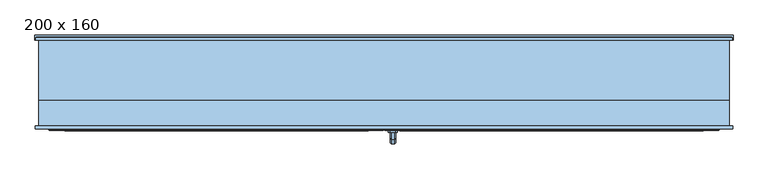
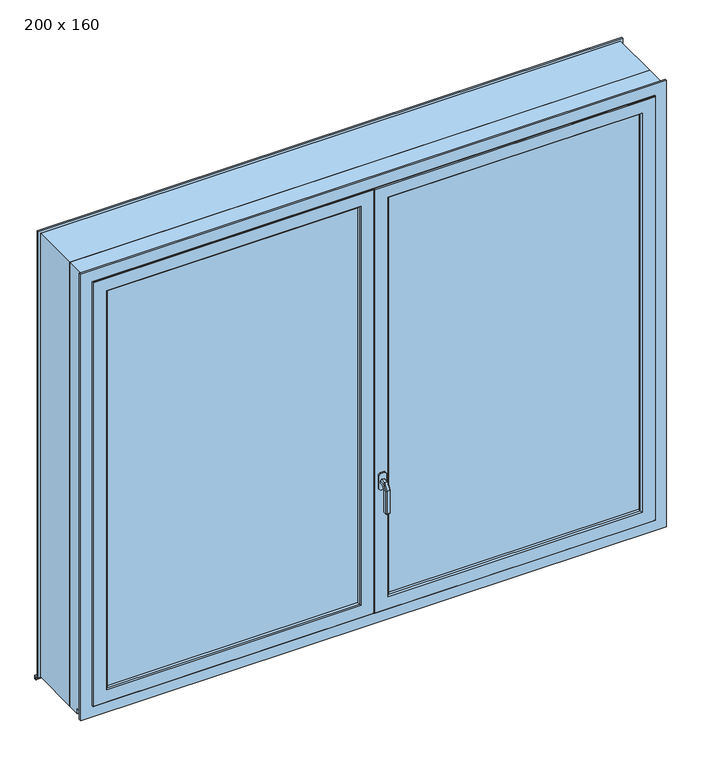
"""IFC4 building model written with IfcOpenShell, lengths in millimetres: window geometry, 2 Vantaux : 200 x 160."""

from ifc_helpers import new_model, si_unit, frame, origin, place, context, project, spatial, polyline, outline, extrude, faceted_brep, source, transform, mapped, element, save


def window_200_x_160_064ba838(model_context):
    return source(origin(), model_context, "Body", "SolidModel", [
        faceted_brep([(30.9590356, -143.0471229, 1308.0), (33.9411255, -143.0471229, 1305.0179101), (33.9411255, -143.0471229, 1294.9820899), (30.9590356, -143.0471229, 1292.0), (20.9232154, -143.0471229, 1292.0), (17.9411255, -143.0471229, 1294.9820899), (17.9411255, -143.0471229, 1305.0179101), (20.9232154, -143.0471229, 1308.0), (30.9590356, -162.665925, 1308.0), (33.9411255, -160.9442146, 1305.0179101), (33.9411255, -173.065033, 1284.0240369), (33.9411255, -173.065033, 1201.9658946), (33.9411255, -163.0292127, 1201.9658946), (33.9411255, -163.0292127, 1281.334947), (33.9411255, -155.1500311, 1294.9820899), (30.9590356, -153.4283207, 1292.0), (20.9232154, -153.4283207, 1292.0), (17.9411255, -155.1500311, 1294.9820899), (17.9411255, -163.0292127, 1281.334947), (17.9411255, -163.0292127, 1201.9658946), (17.9411255, -173.065033, 1201.9658946), (17.9411255, -173.065033, 1284.0240369), (17.9411255, -160.9442146, 1305.0179101), (20.9232154, -162.665925, 1308.0), (30.9590356, -176.0471229, 1284.8230855), (30.9590356, -160.0471229, 1280.5358984), (20.9232154, -160.0471229, 1280.5358984), (20.9232154, -176.0471229, 1284.8230855), (21.7375155, -174.0812283, 1200.0), (19.90702, -172.2507328, 1200.0), (19.90702, -163.8435129, 1200.0), (21.7375155, -162.0130174, 1200.0), (30.1447355, -162.0130174, 1200.0), (31.9752309, -163.8435129, 1200.0), (31.9752309, -172.2507328, 1200.0), (30.1447355, -174.0812283, 1200.0), (30.9590356, -176.0471229, 1201.9658946), (30.9590356, -160.0471229, 1201.9658946), (20.9232154, -160.0471229, 1201.9658946), (20.9232154, -176.0471229, 1201.9658946)], [[[0, 1, 2, 3, 4, 5, 6, 7]], [[1, 0, 8, 9]], [[2, 1, 9, 10, 11, 12, 13, 14]], [[3, 2, 14, 15]], [[4, 3, 15, 16]], [[5, 4, 16, 17]], [[6, 5, 17, 18, 19, 20, 21, 22]], [[7, 6, 22, 23]], [[0, 7, 23, 8]], [[9, 8, 24, 10]], [[14, 13, 25, 15]], [[16, 15, 25, 26]], [[17, 16, 26, 18]], [[22, 21, 27, 23]], [[8, 23, 27, 24]], [[28, 29, 30, 31, 32, 33, 34, 35]], [[10, 24, 36, 11]], [[25, 13, 12, 37]], [[26, 25, 37, 38]], [[18, 26, 38, 19]], [[27, 21, 20, 39]], [[24, 27, 39, 36]], [[20, 29, 28, 39]], [[29, 20, 19, 30]], [[30, 19, 38, 31]], [[31, 38, 37, 32]], [[32, 37, 12, 33]], [[33, 12, 11, 34]], [[34, 11, 36, 35]], [[39, 28, 35, 36]]]),
        extrude(outline(polyline([(1270.0, 33.9411255), (1275.0, 38.9411255), (1325.0, 38.9411255), (1330.0, 33.9411255), (1330.0, 17.9411255), (1325.0, 12.9411255), (1275.0, 12.9411255), (1270.0, 17.9411255), (1270.0, 33.9411255)])), frame((0.0, -143.0471229, 0.0), z_axis=(0.0, 1.0, 0.0), x_axis=(0.0, 0.0, 1.0)), (0.0, 0.0, 1.0), 5.0),
        faceted_brep([(920.0, -99.0588745, 2320.0), (924.0588745, -95.0, 2324.0588745), (924.0588745, -95.0, 869.4411255), (920.0, -99.0588745, 873.5), (968.5, -95.0, 2368.5), (968.5, -95.0, 825.0), (1.5, -95.0, 825.0), (1.5, -95.0, 2368.5), (45.9411255, -95.0, 2324.0588745), (45.9411255, -95.0, 869.4411255), (50.0, -99.0588745, 873.5), (920.0, -108.5235614, 2320.0), (920.0, -108.5235614, 873.5), (50.0, -108.5235614, 873.5), (44.0, -108.5235614, 2326.0), (44.0, -108.5235614, 867.5), (926.0, -108.5235614, 867.5), (926.0, -108.5235614, 2326.0), (50.0, -108.5235614, 2320.0), (926.0, -124.5235614, 2326.0), (926.0, -124.5235614, 867.5), (44.0, -124.5235614, 867.5), (44.0, -124.5235614, 2326.0), (50.0, -124.5235614, 2320.0), (50.0, -124.5235614, 873.5), (920.0, -124.5235614, 873.5), (920.0, -124.5235614, 2320.0), (920.0, -133.9882484, 2320.0), (920.0, -133.9882484, 873.5), (50.0, -133.9882484, 873.5), (924.0588745, -138.0471229, 2324.0588745), (924.0588745, -138.0471229, 869.4411255), (45.9411255, -138.0471229, 869.4411255), (1.5, -138.0471229, 2368.5), (1.5, -138.0471229, 825.0), (968.5, -138.0471229, 825.0), (968.5, -138.0471229, 2368.5), (45.9411255, -138.0471229, 2324.0588745), (970.0, -96.5, 2370.0), (970.0, -136.5471229, 2370.0), (970.0, -136.5471229, 823.5), (970.0, -96.5, 823.5), (0.0, -136.5471229, 823.5), (0.0, -96.5, 823.5), (50.0, -99.0588745, 2320.0), (50.0, -133.9882484, 2320.0), (0.0, -136.5471229, 2370.0), (0.0, -96.5, 2370.0)], [[[0, 1, 2, 3]], [[4, 5, 6, 7], [8, 9, 2, 1]], [[3, 2, 9, 10]], [[11, 0, 3, 12]], [[12, 3, 10, 13]], [[14, 15, 16, 17], [11, 12, 13, 18]], [[19, 17, 16, 20]], [[20, 16, 15, 21]], [[19, 20, 21, 22], [23, 24, 25, 26]], [[27, 26, 25, 28]], [[28, 25, 24, 29]], [[30, 27, 28, 31]], [[31, 28, 29, 32]], [[33, 34, 35, 36], [30, 31, 32, 37]], [[38, 39, 40, 41]], [[39, 36, 35, 40]], [[41, 40, 42, 43]], [[4, 38, 41, 5]], [[10, 9, 8, 44]], [[13, 10, 44, 18]], [[21, 15, 14, 22]], [[29, 24, 23, 45]], [[32, 29, 45, 37]], [[40, 35, 34, 42]], [[43, 42, 46, 47]], [[5, 41, 43, 6]], [[6, 43, 47, 7]], [[42, 34, 33, 46]], [[44, 8, 1, 0]], [[18, 44, 0, 11]], [[22, 14, 17, 19]], [[45, 23, 26, 27]], [[37, 45, 27, 30]], [[47, 46, 39, 38]], [[7, 47, 38, 4]], [[46, 33, 36, 39]]]),
        faceted_brep([(-975.6755267, -45.0, 813.8687943), (-975.6755267, -45.0, 795.0), (-975.6755267, -47.0, 795.0), (-975.6755267, -47.0, 800.0), (-975.6755267, -50.0, 800.0), (-975.6755267, -50.0, 814.2950679), (975.6755267, -45.0, 813.8687943), (975.6755267, -45.0, 795.0), (975.6755267, -47.0, 795.0), (975.6755267, -47.0, 800.0), (975.6755267, -50.0, 800.0), (975.0, -50.6755267, 800.0), (975.0, -85.0, 800.0), (960.0, -85.0, 800.0), (960.0, -95.0, 800.0), (1000.0, -95.0, 800.0), (1000.0, -125.0, 800.0), (-1000.0, -125.0, 800.0), (-1000.0, -95.0, 800.0), (-960.0, -95.0, 800.0), (-960.0, -85.0, 800.0), (-975.0, -85.0, 800.0), (-975.0, -50.6755267, 800.0), (-975.6755267, -50.0, 783.5), (-1000.0, -50.0, 783.5), (-1000.0, -50.0, 2400.0), (1000.0, -50.0, 2400.0), (1000.0, -50.0, 783.5), (975.6755267, -50.0, 783.5), (975.6755267, -50.0, 814.2950679), (975.6755267, -50.0, 2375.6755267), (-975.6755267, -50.0, 2375.6755267), (-975.0, -50.6755267, 814.3526597), (-975.0, -85.0, 817.278983), (975.0, -85.0, 817.278983), (975.0, -50.6755267, 814.3526597), (-1010.0, -125.0, 783.5), (-1010.0, -125.0, 2410.0), (1010.0, -125.0, 2410.0), (1010.0, -125.0, 783.5), (1000.0, -125.0, 2400.0), (-1000.0, -125.0, 2400.0), (-1010.0, -133.0, 783.5), (-1010.0, -133.0, 2410.0), (1010.0, -133.0, 2410.0), (1010.0, -133.0, 783.5), (1000.0, -95.0, 783.5), (960.0, -95.0, 783.5), (960.0, -85.0, 783.5), (975.0, -85.0, 783.5), (975.0, -50.6755267, 783.5), (-975.0, -50.6755267, 783.5), (-975.0, -85.0, 783.5), (-960.0, -85.0, 783.5), (-960.0, -95.0, 783.5), (-1000.0, -95.0, 783.5), (-970.0, -133.0, 2370.0), (970.0, -133.0, 2370.0), (970.0, -133.0, 823.5), (-970.0, -133.0, 823.5), (970.0, -95.0, 2370.0), (970.0, -95.0, 823.5), (-970.0, -95.0, 823.5), (-970.0, -95.0, 2370.0), (-960.0, -95.0, 2360.0), (960.0, -95.0, 2360.0), (960.0, -95.0, 833.5), (-960.0, -95.0, 833.5), (960.0, -85.0, 2360.0), (960.0, -85.0, 833.5), (-960.0, -85.0, 833.5), (-960.0, -85.0, 2360.0), (-975.0, -85.0, 2375.0), (975.0, -85.0, 2375.0), (-975.0, -50.6755267, 2375.0), (975.0, -50.6755267, 2375.0)], [[[0, 1, 2, 3, 4, 5]], [[1, 0, 6, 7]], [[2, 1, 7, 8]], [[3, 2, 8, 9]], [[3, 9, 10, 11, 12, 13, 14, 15, 16, 17, 18, 19, 20, 21, 22, 4]], [[23, 24, 25, 26, 27, 28, 10, 29, 30, 31, 5, 4]], [[6, 0, 5, 32, 33, 34, 35, 29]], [[9, 8, 7, 6, 29, 10]], [[36, 37, 38, 39], [16, 40, 41, 17]], [[36, 42, 43, 37]], [[39, 38, 44, 45]], [[28, 27, 46, 47, 48, 49, 50]], [[42, 36, 39, 45]], [[23, 51, 52, 53, 54, 55, 24]], [[27, 26, 40, 16, 15, 46]], [[41, 25, 24, 55, 18, 17]], [[45, 44, 43, 42], [56, 57, 58, 59]], [[57, 60, 61, 58]], [[59, 58, 61, 62]], [[63, 56, 59, 62]], [[46, 15, 14, 47]], [[54, 19, 18, 55]], [[60, 63, 62, 61], [64, 65, 66, 67]], [[48, 47, 14, 13]], [[65, 68, 69, 66]], [[67, 66, 69, 70]], [[54, 53, 20, 19]], [[71, 64, 67, 70]], [[53, 52, 21, 20]], [[49, 48, 13, 12]], [[72, 73, 34, 33], [68, 71, 70, 69]], [[52, 51, 22, 21]], [[74, 72, 33, 32]], [[50, 49, 12, 11]], [[73, 75, 35, 34]], [[51, 23, 4, 22]], [[31, 74, 32, 5]], [[28, 50, 11, 10]], [[75, 30, 29, 35]], [[25, 41, 40, 26]], [[72, 74, 75, 73]], [[71, 68, 65, 64]], [[63, 60, 57, 56]], [[38, 37, 43, 44]], [[31, 30, 75, 74]]]),
        extrude(outline(polyline([(-926.0, -108.5), (-44.0, -108.5), (-44.0, -124.5), (-926.0, -124.5), (-926.0, -108.5)])), frame((0.0, 0.0, 867.5), z_axis=(0.0, 0.0, 1.0), x_axis=(1.0, 0.0, 0.0)), (0.0, 0.0, 1.0), 1458.5),
        extrude(outline(polyline([(44.0, -108.5), (926.0, -108.5), (926.0, -124.5), (44.0, -124.5), (44.0, -108.5)])), frame((0.0, 0.0, 867.5), z_axis=(0.0, 0.0, 1.0), x_axis=(1.0, 0.0, 0.0)), (0.0, 0.0, 1.0), 1458.5),
        faceted_brep([(0.0, -96.5, 2370.0), (0.0, -136.5471229, 2370.0), (0.0, -136.5471229, 823.5), (0.0, -96.5, 823.5), (-1.5, -138.0471229, 2368.5), (-1.5, -138.0471229, 825.0), (-970.0, -136.5471229, 823.5), (-970.0, -96.5, 823.5), (-1.5, -95.0, 2368.5), (-1.5, -95.0, 825.0), (-45.9411255, -138.0471229, 2324.0588745), (-50.0, -133.9882484, 2320.0), (-50.0, -133.9882484, 873.5), (-45.9411255, -138.0471229, 869.4411255), (-50.0, -124.5235614, 2320.0), (-50.0, -124.5235614, 873.5), (-920.0, -133.9882484, 873.5), (-924.0588745, -138.0471229, 869.4411255), (-968.5, -138.0471229, 2368.5), (-968.5, -138.0471229, 825.0), (-924.0588745, -138.0471229, 2324.0588745), (-44.0, -124.5235614, 867.5), (-926.0, -124.5235614, 867.5), (-926.0, -124.5235614, 2326.0), (-44.0, -124.5235614, 2326.0), (-920.0, -124.5235614, 2320.0), (-920.0, -124.5235614, 873.5), (-44.0, -108.5235614, 2326.0), (-44.0, -108.5235614, 867.5), (-926.0, -108.5235614, 2326.0), (-926.0, -108.5235614, 867.5), (-50.0, -108.5235614, 873.5), (-920.0, -108.5235614, 873.5), (-920.0, -108.5235614, 2320.0), (-50.0, -108.5235614, 2320.0), (-50.0, -99.0588745, 2320.0), (-50.0, -99.0588745, 873.5), (-45.9411255, -95.0, 2324.0588745), (-45.9411255, -95.0, 869.4411255), (-920.0, -99.0588745, 873.5), (-968.5, -95.0, 825.0), (-968.5, -95.0, 2368.5), (-924.0588745, -95.0, 2324.0588745), (-924.0588745, -95.0, 869.4411255), (-970.0, -136.5471229, 2370.0), (-970.0, -96.5, 2370.0), (-920.0, -133.9882484, 2320.0), (-920.0, -99.0588745, 2320.0)], [[[0, 1, 2, 3]], [[1, 4, 5, 2]], [[3, 2, 6, 7]], [[8, 0, 3, 9]], [[10, 11, 12, 13]], [[11, 14, 15, 12]], [[13, 12, 16, 17]], [[4, 18, 19, 5], [13, 17, 20, 10]], [[21, 22, 23, 24], [14, 25, 26, 15]], [[12, 15, 26, 16]], [[24, 27, 28, 21]], [[27, 29, 30, 28], [31, 32, 33, 34]], [[21, 28, 30, 22]], [[34, 35, 36, 31]], [[35, 37, 38, 36]], [[31, 36, 39, 32]], [[9, 40, 41, 8], [37, 42, 43, 38]], [[36, 38, 43, 39]], [[2, 5, 19, 6]], [[7, 6, 44, 45]], [[9, 3, 7, 40]], [[17, 16, 46, 20]], [[16, 26, 25, 46]], [[22, 30, 29, 23]], [[32, 39, 47, 33]], [[39, 43, 42, 47]], [[6, 19, 18, 44]], [[40, 7, 45, 41]], [[47, 42, 37, 35]], [[33, 47, 35, 34]], [[23, 29, 27, 24]], [[46, 25, 14, 11]], [[20, 46, 11, 10]], [[45, 44, 1, 0]], [[41, 45, 0, 8]], [[44, 18, 4, 1]]]),
        faceted_brep([(1010.6755267, 125.0, 784.2945446), (1010.6755267, 125.0, 782.7924528), (1010.6755267, 138.5, 782.0792453), (1010.6755267, 138.5, 772.5), (1010.6755267, 133.5, 772.5), (1010.6755267, 133.5, 771.0), (1010.6755267, 140.0, 771.0), (1010.6755267, 140.0, 783.5020918), (1008.0, 125.0, 784.2945446), (1008.0, 125.0, 2408.0), (-1008.0, 125.0, 2408.0), (-1008.0, 125.0, 784.2945446), (-1010.6755267, 125.0, 784.2945446), (-1010.6755267, 125.0, 782.7924528), (-975.6755267, 125.0, 782.7924528), (-975.6755267, 125.0, 783.5), (-1000.0, 125.0, 783.5), (-1000.0, 125.0, 2400.0), (1000.0, 125.0, 2400.0), (1000.0, 125.0, 783.5), (975.6755267, 125.0, 783.5), (975.6755267, 125.0, 782.7924528), (975.6755267, 111.6071429, 783.5), (975.6755267, -50.0, 792.0377358), (975.6755267, -60.0, 792.5660377), (-975.6755267, -60.0, 792.5660377), (-975.6755267, -50.0, 792.0377358), (-975.6755267, 111.6071429, 783.5), (-1010.6755267, 138.5, 782.0792453), (-1010.6755267, 138.5, 772.5), (-1010.6755267, 133.5, 772.5), (-1010.6755267, 133.5, 771.0), (-1010.6755267, 140.0, 771.0), (-1010.6755267, 140.0, 783.5020918), (-1008.0, 131.1421356, 783.9700545), (-1006.1421356, 133.0, 783.8719031), (-978.8578644, 133.0, 783.8719031), (-975.6755267, 129.8176624, 784.0400266), (-975.6755267, 125.0, 784.2945446), (-975.6755267, -50.0, 793.5398277), (-975.6755267, -58.5, 793.9888843), (975.6755267, -58.5, 793.9888843), (975.6755267, -50.0, 793.5398277), (975.6755267, 125.0, 784.2945446), (975.6755267, 129.8176624, 784.0400266), (978.8578644, 133.0, 783.8719031), (1006.1421356, 133.0, 783.8719031), (1008.0, 131.1421356, 783.9700545), (1008.0, 131.1421356, 2408.0), (-1008.0, 131.1421356, 2408.0), (-975.6755267, -60.0, 797.4781943), (-975.6755267, -58.5, 797.4781943), (-975.6755267, -50.0, 783.5), (-1000.0, -50.0, 783.5), (-1000.0, -50.0, 2400.0), (1000.0, -50.0, 2400.0), (1000.0, -50.0, 783.5), (975.6755267, -50.0, 783.5), (975.6755267, -58.5, 797.4781943), (975.6755267, -60.0, 797.4781943), (975.6755267, -50.0, 2375.6755267), (975.6755267, 129.8176624, 2375.6755267), (-975.6755267, 129.8176624, 2375.6755267), (-975.6755267, -50.0, 2375.6755267), (-1006.1421356, 133.0, 2406.1421356), (1006.1421356, 133.0, 2406.1421356), (978.8578644, 133.0, 2378.8578644), (-978.8578644, 133.0, 2378.8578644)], [[[0, 1, 2, 3, 4, 5, 6, 7]], [[1, 0, 8, 9, 10, 11, 12, 13, 14, 15, 16, 17, 18, 19, 20, 21]], [[2, 1, 21, 22, 23, 24, 25, 26, 27, 14, 13, 28]], [[3, 2, 28, 29]], [[4, 3, 29, 30]], [[5, 4, 30, 31]], [[6, 5, 31, 32]], [[7, 6, 32, 33]], [[0, 7, 33, 12, 11, 34, 35, 36, 37, 38, 39, 40, 41, 42, 43, 44, 45, 46, 47, 8]], [[48, 9, 8, 47]], [[10, 49, 34, 11]], [[33, 32, 31, 30, 29, 28, 13, 12]], [[15, 14, 27]], [[25, 50, 51, 40, 39, 26]], [[52, 53, 16, 15, 27]], [[17, 16, 53, 54]], [[55, 56, 19, 18]], [[56, 57, 22, 20, 19]], [[21, 20, 22]], [[41, 58, 59, 24, 23, 42]], [[57, 23, 22]], [[60, 61, 44, 43, 42]], [[50, 25, 24, 59]], [[52, 27, 26]], [[62, 63, 39, 38, 37]], [[49, 64, 35, 34]], [[64, 65, 46, 45, 66, 67, 36, 35]], [[67, 62, 37, 36]], [[40, 51, 58, 41]], [[61, 66, 45, 44]], [[65, 48, 47, 46]], [[51, 50, 59, 58]], [[53, 52, 26, 39, 63, 60, 42, 23, 57, 56, 55, 54]], [[54, 55, 18, 17]], [[10, 9, 48, 49]], [[64, 49, 48, 65]], [[67, 66, 61, 62]], [[60, 63, 62, 61]]]),
        extrude(outline(polyline([(-60.0, 800.0), (-60.0, 792.5660377), (85.0, 784.9056604), (85.0, 765.0), (-95.0, 765.0), (-95.0, 800.0), (-60.0, 800.0)])), frame((-975.6755267, 0.0, 0.0), z_axis=(1.0, 0.0, 0.0), x_axis=(0.0, 1.0, 0.0)), (0.0, 0.0, 1.0), 1951.3510535),
    ])


if __name__ == "__main__":
    model = new_model("IFC4")
    model_context = context("Model", 3, world=origin())
    ifc_project = project(units=[si_unit("LENGTHUNIT", "METRE", prefix="MILLI")], contexts=[model_context])
    site = spatial("IfcSite", under=ifc_project)
    building = spatial("IfcBuilding", under=site)
    placement = place(None, origin())
    window_200_x_160_shape = window_200_x_160_064ba838(model_context)
    element("IfcWindow", 1, ObjectType="2 Vantaux : 200 x 160", at=placement, inside=building, context=model_context, shape_type="MappedRepresentation", body=[
        mapped(window_200_x_160_shape, transform((0.0, 0.0, 0.0), x_axis=(1.0, 0.0, 0.0), y_axis=(0.0, 1.0, 0.0), z_axis=(0.0, 0.0, 1.0))),
    ])
    save(model, "model.ifc")
